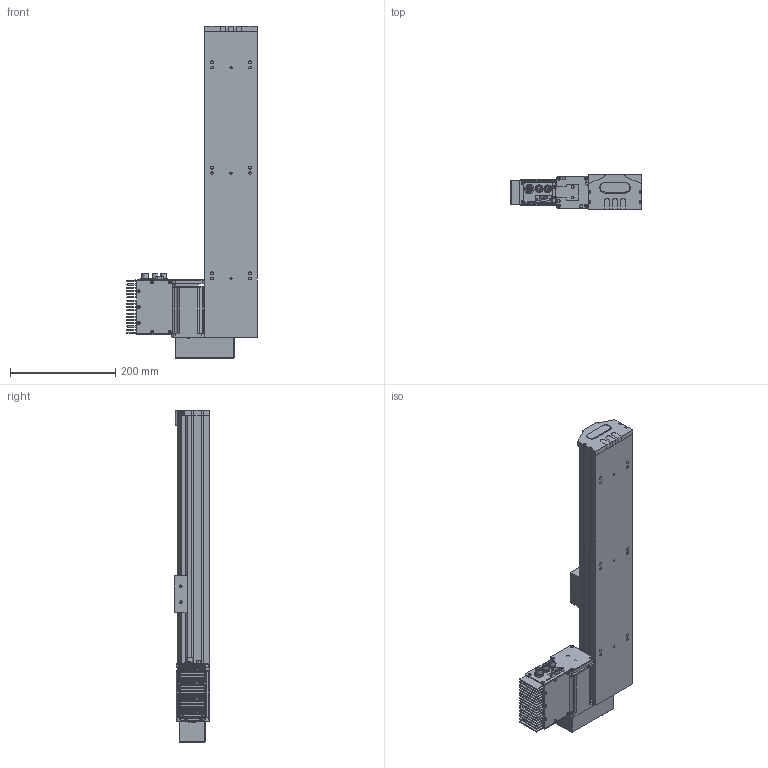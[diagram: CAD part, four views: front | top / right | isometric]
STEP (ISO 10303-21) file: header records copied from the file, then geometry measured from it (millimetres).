
FILE_DESCRIPTION (( 'STEP AP203' ), '1' );
FILE_NAME ('S10 TSN BL S400.STEP', '2012-08-31T14:21:22', ( 'Conseil Régional Haute-Normandie' ), ( 'Conseil Régional Haute-Normandie' ), 'SwSTEP 2.0', 'SolidWorks 2010', '' );
FILE_SCHEMA (( 'CONFIG_CONTROL_DESIGN' ));
Length unit declared in the file: millimetre
Products named in the file (25): Couvercle_3; BU41 Carte Alimentation P05_3; T_X2_00F4_X0_le contre le moteur_5; Vis TF 3 torkx; S10 TSN BL S400; Assem1_7; Sub D 9cts 90_X2_00B_X0__3; Colonnette_3; BU45 Carte d''axe A11_5; Moteur 60BLDC90A_3; T_X2_00F4_X0_le lat_X2_00E9_X0_rale_5; T_X2_00F4_X0_le fond_3; Connecteur rond D10 3cts_5; Connecteur rond D12 4cts_5; Radiateur profil_X2_00E9_X0_ 100x25_3; Colonnette ronde_3; T_X2_00F4_X0_le Arri_X2_00E8_X0_re_5; Vis TF 3 torkx_1_1; axe587; palette tbn; renvoi LH_Default; piece_plastique remplie_Default; embout_modifié; remplir_Default; Pièce2_Default
Assembly tree (55 placements, depth 3):
  S10 TSN BL S400
    Vis TF 3 torkx  x7
    axe587
    Assem1_7
      Couvercle_3
      Radiateur profil_X2_00E9_X0_ 100x25_3
      Vis TF 3 torkx_1_1  x21
      T_X2_00F4_X0_le fond_3
      Sub D 9cts 90_X2_00B_X0__3
      T_X2_00F4_X0_le Arri_X2_00E8_X0_re_5
      BU41 Carte Alimentation P05_3
      T_X2_00F4_X0_le lat_X2_00E9_X0_rale_5  x2
      BU45 Carte d''axe A11_5
      T_X2_00F4_X0_le contre le moteur_5
      Connecteur rond D10 3cts_5  x2
      Colonnette ronde_3
      Moteur 60BLDC90A_3
      Colonnette_3  x2
      Connecteur rond D12 4cts_5
    palette tbn
    renvoi LH_Default
    piece_plastique remplie_Default
      remplir_Default  x3
      Pièce2_Default
      embout_modifié
Bounding box: 248 x 66.75 x 629.5 mm (x, y, z)
Volume: 3743432.9 mm3; surface area: 554664.4 mm2
Topology: 53 solids, 53 shells, 1943 faces, 4950 edges, 3226 vertices
Faces by surface type: plane 921, cylinder 859, cone 156, bspline 4, torus 3
Entity records: 37979 total; most frequent: CARTESIAN_POINT 6419, DIRECTION 6155, ORIENTED_EDGE 5608, EDGE_CURVE 2804, AXIS2_PLACEMENT_3D 2251, VERTEX_POINT 1838, LINE 1653, VECTOR 1653
